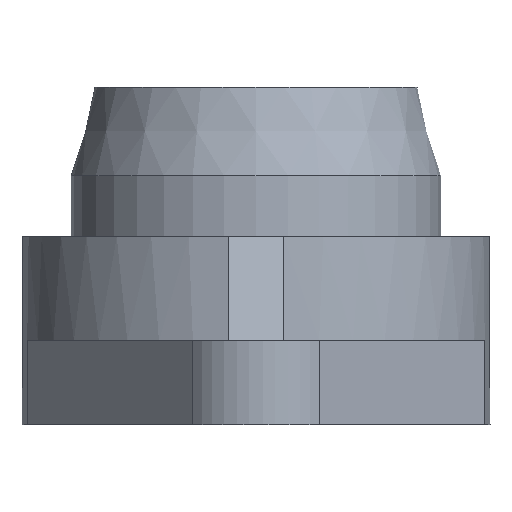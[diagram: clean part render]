
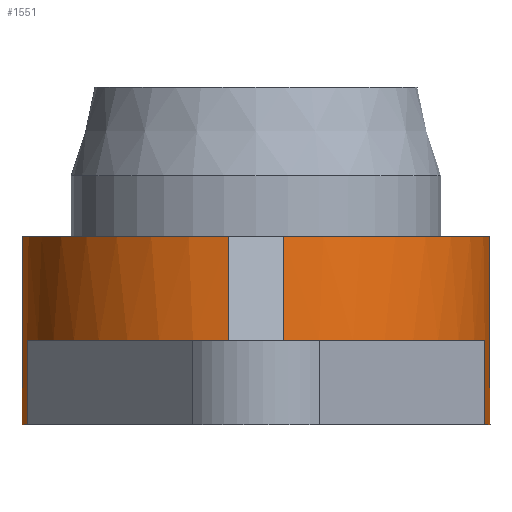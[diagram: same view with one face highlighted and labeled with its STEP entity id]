
A CAD part, front view. The second image highlights one B-rep face of the part: STEP entity #1551.
In plain terms, the highlighted cylindrical face has radius 31.75 mm (diameter 63.5 mm), a partial arc.
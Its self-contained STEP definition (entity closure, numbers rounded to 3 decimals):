
#130=FACE_BOUND('',#254,.T.);
#161=FACE_OUTER_BOUND('',#253,.T.);
#253=EDGE_LOOP('',(#1037,#1038,#1039,#1040,#1041,#1042,#1043,#1044));
#254=EDGE_LOOP('',(#1045,#1046));
#369=B_SPLINE_CURVE_WITH_KNOTS('',3,(#2498,#2499,#2500,#2501,#2502,#2503,
#2504,#2505,#2506,#2507,#2508,#2509,#2510,#2511,#2512,#2513,#2514,#2515),
 .UNSPECIFIED.,.F.,.F.,(4,2,2,2,2,2,2,2,4),(0.375,0.469,
0.563,0.657,0.75,0.844,
0.938,1.032,1.126),.UNSPECIFIED.);
#370=B_SPLINE_CURVE_WITH_KNOTS('',3,(#2516,#2517,#2518,#2519,#2520,#2521,
#2522,#2523,#2524,#2525,#2526,#2527,#2528,#2529,#2530,#2531,#2532,#2533,
#2534),.UNSPECIFIED.,.F.,.F.,(4,2,2,2,3,2,2,2,4),(1.126,1.219,
1.313,1.407,1.501,1.595,1.688,
1.782,1.876),.UNSPECIFIED.);
#382=LINE('',#2482,#468);
#383=LINE('',#2486,#469);
#384=LINE('',#2490,#470);
#385=LINE('',#2494,#471);
#468=VECTOR('',#1968,10.);
#469=VECTOR('',#1971,10.);
#470=VECTOR('',#1974,10.);
#471=VECTOR('',#1977,10.);
#560=CIRCLE('',#1758,31.75);
#561=CIRCLE('',#1759,31.75);
#562=CIRCLE('',#1760,31.75);
#563=CIRCLE('',#1761,31.75);
#658=VERTEX_POINT('',#2480);
#659=VERTEX_POINT('',#2481);
#660=VERTEX_POINT('',#2483);
#661=VERTEX_POINT('',#2485);
#662=VERTEX_POINT('',#2487);
#663=VERTEX_POINT('',#2489);
#664=VERTEX_POINT('',#2491);
#665=VERTEX_POINT('',#2493);
#666=VERTEX_POINT('',#2496);
#667=VERTEX_POINT('',#2497);
#812=EDGE_CURVE('',#658,#659,#382,.T.);
#813=EDGE_CURVE('',#660,#659,#560,.T.);
#814=EDGE_CURVE('',#661,#660,#383,.T.);
#815=EDGE_CURVE('',#661,#662,#561,.T.);
#816=EDGE_CURVE('',#662,#663,#384,.T.);
#817=EDGE_CURVE('',#664,#663,#562,.T.);
#818=EDGE_CURVE('',#664,#665,#385,.T.);
#819=EDGE_CURVE('',#665,#658,#563,.T.);
#820=EDGE_CURVE('',#666,#667,#369,.T.);
#821=EDGE_CURVE('',#667,#666,#370,.T.);
#1037=ORIENTED_EDGE('',*,*,#812,.T.);
#1038=ORIENTED_EDGE('',*,*,#813,.F.);
#1039=ORIENTED_EDGE('',*,*,#814,.F.);
#1040=ORIENTED_EDGE('',*,*,#815,.T.);
#1041=ORIENTED_EDGE('',*,*,#816,.T.);
#1042=ORIENTED_EDGE('',*,*,#817,.F.);
#1043=ORIENTED_EDGE('',*,*,#818,.T.);
#1044=ORIENTED_EDGE('',*,*,#819,.T.);
#1045=ORIENTED_EDGE('',*,*,#820,.T.);
#1046=ORIENTED_EDGE('',*,*,#821,.T.);
#1466=CYLINDRICAL_SURFACE('',#1757,31.75);
#1551=ADVANCED_FACE('',(#161,#130),#1466,.T.);
#1757=AXIS2_PLACEMENT_3D('',#2479,#1966,#1967);
#1758=AXIS2_PLACEMENT_3D('',#2484,#1969,#1970);
#1759=AXIS2_PLACEMENT_3D('',#2488,#1972,#1973);
#1760=AXIS2_PLACEMENT_3D('',#2492,#1975,#1976);
#1761=AXIS2_PLACEMENT_3D('',#2495,#1978,#1979);
#1966=DIRECTION('center_axis',(0.,0.,1.));
#1967=DIRECTION('ref_axis',(0.,1.,0.));
#1968=DIRECTION('',(0.,0.,-1.));
#1969=DIRECTION('center_axis',(0.,0.,
-1.));
#1970=DIRECTION('ref_axis',(-1.,0.,0.));
#1971=DIRECTION('',(0.,0.,1.));
#1972=DIRECTION('center_axis',(0.,0.,1.));
#1973=DIRECTION('ref_axis',(0.976,-0.216,0.));
#1974=DIRECTION('',(0.,0.,1.));
#1975=DIRECTION('center_axis',(0.,0.,
-1.));
#1976=DIRECTION('ref_axis',(-1.,0.,0.));
#1977=DIRECTION('',(0.,0.,1.));
#1978=DIRECTION('center_axis',(0.,0.,-1.));
#1979=DIRECTION('ref_axis',(-1.,0.,0.));
#2479=CARTESIAN_POINT('Origin',(0.,0.,-15.4));
#2480=CARTESIAN_POINT('',(3.75,-31.528,10.1));
#2481=CARTESIAN_POINT('',(3.75,-31.528,-4.));
#2482=CARTESIAN_POINT('',(3.75,-31.528,-15.4));
#2483=CARTESIAN_POINT('',(31.,-6.86,-4.));
#2484=CARTESIAN_POINT('Origin',(0.,0.,-4.));
#2485=CARTESIAN_POINT('',(31.,-6.86,-15.4));
#2486=CARTESIAN_POINT('',(31.,-6.86,-15.4));
#2487=CARTESIAN_POINT('',(-31.,-6.86,-15.4));
#2488=CARTESIAN_POINT('Origin',(0.,0.,-15.4));
#2489=CARTESIAN_POINT('',(-31.,-6.86,-4.));
#2490=CARTESIAN_POINT('',(-31.,-6.86,-15.4));
#2491=CARTESIAN_POINT('',(-3.75,-31.528,-4.));
#2492=CARTESIAN_POINT('Origin',(0.,0.,-4.));
#2493=CARTESIAN_POINT('',(-3.75,-31.528,10.1));
#2494=CARTESIAN_POINT('',(-3.75,-31.528,-15.4));
#2495=CARTESIAN_POINT('Origin',(0.,0.,10.1));
#2496=CARTESIAN_POINT('',(-22.451,22.451,-0.189));
#2497=CARTESIAN_POINT('',(-22.451,22.451,4.789));
#2498=CARTESIAN_POINT('Ctrl Pts',(-22.451,22.451,-0.189));
#2499=CARTESIAN_POINT('Ctrl Pts',(-22.23,22.672,-0.189));
#2500=CARTESIAN_POINT('Ctrl Pts',(-21.99,22.904,-0.126));
#2501=CARTESIAN_POINT('Ctrl Pts',(-21.544,23.324,0.128));
#2502=CARTESIAN_POINT('Ctrl Pts',(-21.337,23.513,0.319));
#2503=CARTESIAN_POINT('Ctrl Pts',(-21.007,23.808,0.761));
#2504=CARTESIAN_POINT('Ctrl Pts',(-20.862,23.934,1.041));
#2505=CARTESIAN_POINT('Ctrl Pts',(-20.669,24.101,1.654));
#2506=CARTESIAN_POINT('Ctrl Pts',(-20.622,24.142,1.987));
#2507=CARTESIAN_POINT('Ctrl Pts',(-20.622,24.142,2.613));
#2508=CARTESIAN_POINT('Ctrl Pts',(-20.669,24.101,2.946));
#2509=CARTESIAN_POINT('Ctrl Pts',(-20.862,23.934,3.559));
#2510=CARTESIAN_POINT('Ctrl Pts',(-21.007,23.808,3.839));
#2511=CARTESIAN_POINT('Ctrl Pts',(-21.337,23.513,4.281));
#2512=CARTESIAN_POINT('Ctrl Pts',(-21.544,23.324,4.472));
#2513=CARTESIAN_POINT('Ctrl Pts',(-21.99,22.904,4.726));
#2514=CARTESIAN_POINT('Ctrl Pts',(-22.23,22.672,4.789));
#2515=CARTESIAN_POINT('Ctrl Pts',(-22.451,22.451,4.789));
#2516=CARTESIAN_POINT('Ctrl Pts',(-22.451,22.451,4.789));
#2517=CARTESIAN_POINT('Ctrl Pts',(-22.672,22.23,4.789));
#2518=CARTESIAN_POINT('Ctrl Pts',(-22.904,21.99,4.726));
#2519=CARTESIAN_POINT('Ctrl Pts',(-23.324,21.544,4.472));
#2520=CARTESIAN_POINT('Ctrl Pts',(-23.513,21.337,4.281));
#2521=CARTESIAN_POINT('Ctrl Pts',(-23.808,21.007,3.839));
#2522=CARTESIAN_POINT('Ctrl Pts',(-23.934,20.862,3.559));
#2523=CARTESIAN_POINT('Ctrl Pts',(-24.101,20.669,2.946));
#2524=CARTESIAN_POINT('Ctrl Pts',(-24.142,20.622,2.613));
#2525=CARTESIAN_POINT('Ctrl Pts',(-24.142,20.622,2.3));
#2526=CARTESIAN_POINT('Ctrl Pts',(-24.142,20.622,1.987));
#2527=CARTESIAN_POINT('Ctrl Pts',(-24.101,20.669,1.654));
#2528=CARTESIAN_POINT('Ctrl Pts',(-23.934,20.862,1.041));
#2529=CARTESIAN_POINT('Ctrl Pts',(-23.808,21.007,0.761));
#2530=CARTESIAN_POINT('Ctrl Pts',(-23.513,21.337,0.319));
#2531=CARTESIAN_POINT('Ctrl Pts',(-23.324,21.544,0.128));
#2532=CARTESIAN_POINT('Ctrl Pts',(-22.904,21.99,-0.126));
#2533=CARTESIAN_POINT('Ctrl Pts',(-22.672,22.23,-0.189));
#2534=CARTESIAN_POINT('Ctrl Pts',(-22.451,22.451,-0.189));
